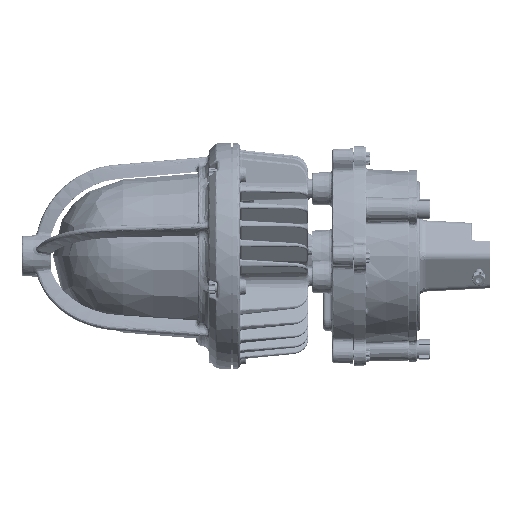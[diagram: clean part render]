
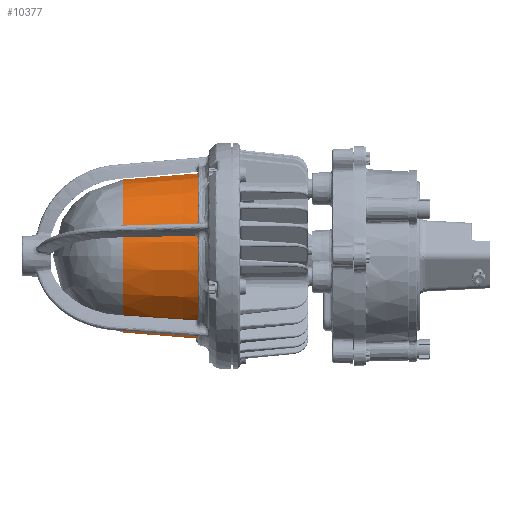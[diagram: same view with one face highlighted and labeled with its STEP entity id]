
A CAD part, left-side view. The second image highlights one B-rep face of the part: STEP entity #10377.
In plain terms, the highlighted conical face has half-angle 4.645 degrees and reference radius 52.923 mm.
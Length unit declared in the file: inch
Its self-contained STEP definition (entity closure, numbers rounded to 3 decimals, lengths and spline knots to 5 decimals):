
#301 = ORIENTED_EDGE ( 'NONE', *, *, #6625, .T. ) ;
#3567 = CARTESIAN_POINT ( 'NONE',  ( 0., 0.04025, 0. ) ) ;
#3615 = VERTEX_POINT ( 'NONE', #169103 ) ;
#6282 = AXIS2_PLACEMENT_3D ( 'NONE', #44940, #60542, #128459 ) ;
#6625 = EDGE_CURVE ( 'NONE', #154479, #63289, #149325, .T. ) ;
#10377 = ADVANCED_FACE ( 'NONE', ( #157409 ), #12035, .T. ) ;
#12035 = CONICAL_SURFACE ( 'NONE', #182566, 2.0836, 0.081 ) ;
#17052 = VECTOR ( 'NONE', #73139, 39.37008 ) ;
#17768 = EDGE_CURVE ( 'NONE', #18173, #186775, #119001, .T. ) ;
#18173 = VERTEX_POINT ( 'NONE', #201014 ) ;
#23917 = CARTESIAN_POINT ( 'NONE',  ( 0., 0.04025, 0. ) ) ;
#25082 = CARTESIAN_POINT ( 'NONE',  ( 0., 2.26093, 0. ) ) ;
#29165 = EDGE_LOOP ( 'NONE', ( #75619, #58358, #95120, #54902, #216691, #301 ) ) ;
#33645 = DIRECTION ( 'NONE',  ( 0., 1., 0. ) ) ;
#38411 = DIRECTION ( 'NONE',  ( 0., 0., -1. ) ) ;
#40685 = DIRECTION ( 'NONE',  ( 0., -1., 0. ) ) ;
#41135 = DIRECTION ( 'NONE',  ( 0., 1., 0. ) ) ;
#41672 = DIRECTION ( 'NONE',  ( 0., -1., 0. ) ) ;
#41972 = LINE ( 'NONE', #144342, #17052 ) ;
#44940 = CARTESIAN_POINT ( 'NONE',  ( 0., 2.26093, 0. ) ) ;
#49630 = CIRCLE ( 'NONE', #116689, 1.90318 ) ;
#53173 = CARTESIAN_POINT ( 'NONE',  ( 0., 0.04025, 2.0836 ) ) ;
#53650 = VERTEX_POINT ( 'NONE', #164676 ) ;
#54902 = ORIENTED_EDGE ( 'NONE', *, *, #17768, .T. ) ;
#58358 = ORIENTED_EDGE ( 'NONE', *, *, #100831, .T. ) ;
#60542 = DIRECTION ( 'NONE',  ( 0., -1., 0. ) ) ;
#63289 = VERTEX_POINT ( 'NONE', #53173 ) ;
#69155 = EDGE_CURVE ( 'NONE', #3615, #18173, #49630, .T. ) ;
#73139 = DIRECTION ( 'NONE',  ( 0., -0.997, 0.081 ) ) ;
#75619 = ORIENTED_EDGE ( 'NONE', *, *, #101555, .F. ) ;
#89486 = CARTESIAN_POINT ( 'NONE',  ( -2.0836, 0.04025, 0. ) ) ;
#95120 = ORIENTED_EDGE ( 'NONE', *, *, #69155, .T. ) ;
#100831 = EDGE_CURVE ( 'NONE', #53650, #3615, #119858, .T. ) ;
#101555 = EDGE_CURVE ( 'NONE', #53650, #63289, #41972, .T. ) ;
#102607 = AXIS2_PLACEMENT_3D ( 'NONE', #3567, #33645, #117139 ) ;
#106843 = CARTESIAN_POINT ( 'NONE',  ( 0., 0.04025, 0. ) ) ;
#116689 = AXIS2_PLACEMENT_3D ( 'NONE', #25082, #40685, #123079 ) ;
#117139 = DIRECTION ( 'NONE',  ( 0., 0., -1. ) ) ;
#118374 = CARTESIAN_POINT ( 'NONE',  ( 0., 0.04025, -2.0836 ) ) ;
#119001 = LINE ( 'NONE', #183501, #138761 ) ;
#119858 = CIRCLE ( 'NONE', #6282, 1.90318 ) ;
#123079 = DIRECTION ( 'NONE',  ( 0., 0., -1. ) ) ;
#128459 = DIRECTION ( 'NONE',  ( 0., 0., -1. ) ) ;
#138761 = VECTOR ( 'NONE', #171215, 39.37008 ) ;
#144342 = CARTESIAN_POINT ( 'NONE',  ( 0., 0.04025, 2.0836 ) ) ;
#149325 = CIRCLE ( 'NONE', #167082, 2.0836 ) ;
#154479 = VERTEX_POINT ( 'NONE', #89486 ) ;
#155917 = CIRCLE ( 'NONE', #102607, 2.0836 ) ;
#157409 = FACE_OUTER_BOUND ( 'NONE', #29165, .T. ) ;
#164676 = CARTESIAN_POINT ( 'NONE',  ( 0., 2.26093, 1.90318 ) ) ;
#167082 = AXIS2_PLACEMENT_3D ( 'NONE', #106843, #41135, #191316 ) ;
#167910 = EDGE_CURVE ( 'NONE', #186775, #154479, #155917, .T. ) ;
#169103 = CARTESIAN_POINT ( 'NONE',  ( -1.90318, 2.26093, 0. ) ) ;
#171215 = DIRECTION ( 'NONE',  ( 0., -0.997, -0.081 ) ) ;
#182566 = AXIS2_PLACEMENT_3D ( 'NONE', #23917, #41672, #38411 ) ;
#183501 = CARTESIAN_POINT ( 'NONE',  ( 0., 0.04025, -2.0836 ) ) ;
#186775 = VERTEX_POINT ( 'NONE', #118374 ) ;
#191316 = DIRECTION ( 'NONE',  ( 0., 0., -1. ) ) ;
#201014 = CARTESIAN_POINT ( 'NONE',  ( 0., 2.26093, -1.90318 ) ) ;
#216691 = ORIENTED_EDGE ( 'NONE', *, *, #167910, .T. ) ;
